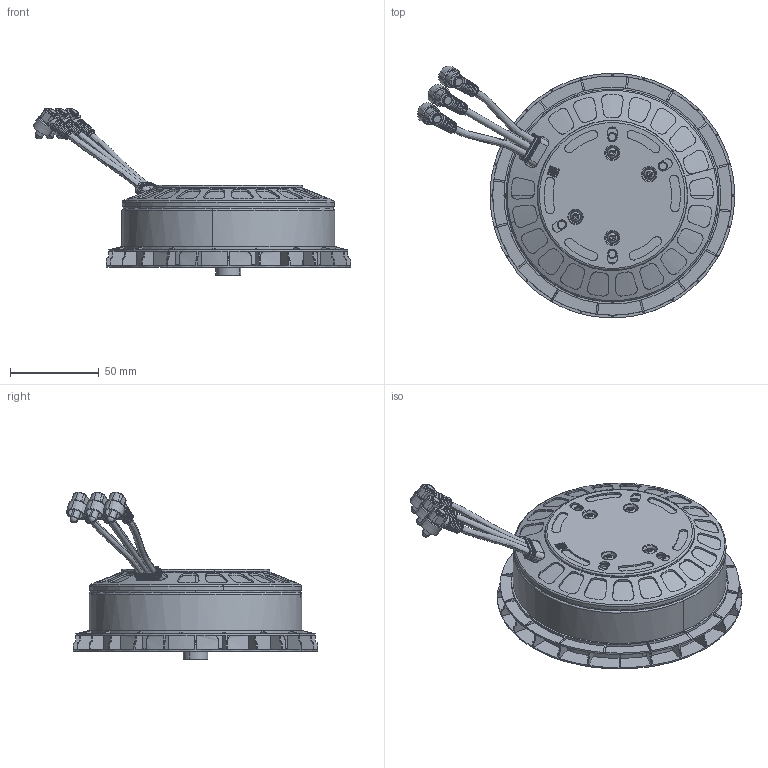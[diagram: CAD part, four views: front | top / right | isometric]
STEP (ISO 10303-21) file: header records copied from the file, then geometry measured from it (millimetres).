
FILE_DESCRIPTION (( 'STEP AP214' ), '1' );
FILE_NAME ('305300203AB-UAVM-X11-G2-11115-95KV-BLACK-unlabeled-勤俋3D.STEP', '2025-08-28T01:06:27', ( '' ), ( '' ), 'SwSTEP 2.0', 'SolidWorks 2021', '' );
FILE_SCHEMA (( 'AUTOMOTIVE_DESIGN' ));
Length unit declared in the file: millimetre
Products named in the file (1): 305300203AB-UAVM-X11-G2-11115-95KV-BLACK-unlabeled-勤俋3D
Bounding box: 179.06 x 142.03 x 94.45 mm (x, y, z)
Volume: 487063.1 mm3; surface area: 82936.2 mm2
Topology: 1 solids, 8 shells, 2795 faces, 7514 edges, 4781 vertices
Faces by surface type: plane 1295, cylinder 639, cone 402, bspline 232, torus 219, sphere 8
Entity records: 137983 total; most frequent: CARTESIAN_POINT 40940, ORIENTED_EDGE 14980, DIRECTION 12935, EDGE_CURVE 7490, VERTEX_POINT 4781, AXIS2_PLACEMENT_3D 4767, LINE 3401, VECTOR 3401
